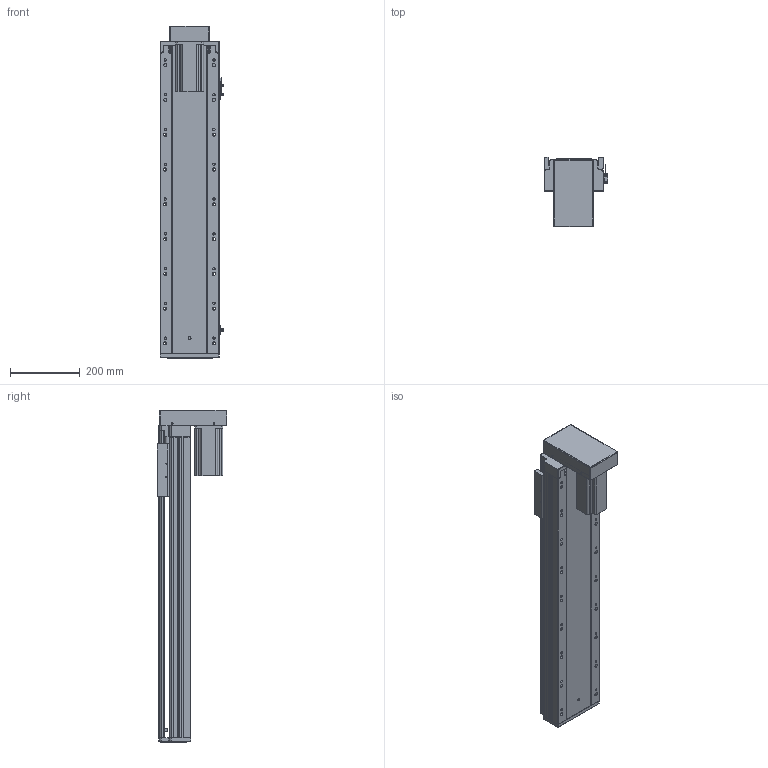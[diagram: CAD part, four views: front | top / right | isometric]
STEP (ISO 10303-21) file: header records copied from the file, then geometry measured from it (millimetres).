
FILE_DESCRIPTION (( 'STEP AP203' ), '1' );
FILE_NAME ('RY170-L2510-300-BK.SLDASM_650.step', '2021-03-12T08:58:07', ( '盈信电脑' ), ( '东莞市道滘镇水果街19号' ), 'SwSTEP 2.0', 'SolidWorks 2012', '' );
FILE_SCHEMA (( 'CONFIG_CONTROL_DESIGN' ));
Products named in the file (14): RY170-狟殏萇儂假蚾啣; RY170狟殏萇儂欶; 怢湛750W萇儂ㄗ80遺ㄘ; 滅袉蝶18-10; 滅袉蝶18-20; RY170转折电机端支撑座(7004); RY170外置感应片(200共用）; RY170綴裔啣; 覜茼ん672; RY170-300倰第裔啣-BK_650; RY170-300倰第菁釱-BK_650; 改造-RY170铝滑块25丝杆螺母; RY170-狟殏750W萇儂傷; RY170-L2510-300-BK.SLDASM_650
Assembly tree (15 placements, depth 3):
  RY170-L2510-300-BK.SLDASM_650
    RY170-300倰第菁釱-BK_650
    改造-RY170铝滑块25丝杆螺母
    RY170-300倰第裔啣-BK_650
    RY170綴裔啣
    覜茼ん672  x3
    RY170外置感应片(200共用）
    滅袉蝶18-20
    滅袉蝶18-10
    RY170转折电机端支撑座(7004)
    RY170-狟殏750W萇儂傷
      RY170-狟殏萇儂假蚾啣
      RY170狟殏萇儂欶
      怢湛750W萇儂ㄗ80遺ㄘ
Bounding box: 183.7 x 200.8 x 954.5 mm (x, y, z)
Volume: 5719384.2 mm3; surface area: 1721992.6 mm2
Topology: 14 solids, 14 shells, 2172 faces, 6285 edges, 4050 vertices
Faces by surface type: plane 1084, cylinder 907, cone 162, bspline 19
Entity records: 71226 total; most frequent: CARTESIAN_POINT 17531, ORIENTED_EDGE 11338, DIRECTION 10341, EDGE_CURVE 5669, VERTEX_POINT 3730, LINE 3465, VECTOR 3465, AXIS2_PLACEMENT_3D 3438
